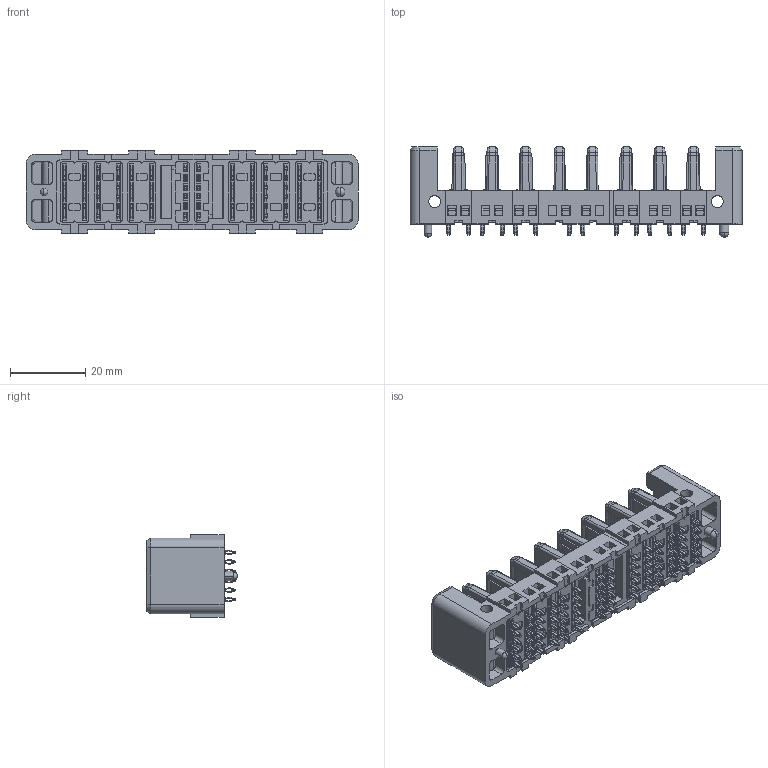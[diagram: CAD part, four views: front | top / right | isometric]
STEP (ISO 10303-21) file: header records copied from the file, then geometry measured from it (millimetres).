
FILE_DESCRIPTION(/* description */ (''),/* implementation_level */ '2;1');
FILE_NAME(/* name */ 'PDC3730F0001-12S石头档.stp',/* time_stamp */ '2024-08-16T10:37:20+08:00',/* author */ (''),/* organization */ (''),/* preprocessor_version */ 'ST-DEVELOPER v16.7',/* originating_system */ 'SIEMENS PLM Software NX 1946',/* authorisation */ '');
FILE_SCHEMA (('AUTOMOTIVE_DESIGN { 1 0 10303 214 3 1 1 1 }'));
Products named in the file (1): _model1
Bounding box: 88.1 x 24 x 22 mm (x, y, z)
Volume: 20231.8 mm3; surface area: 18590.5 mm2
Topology: 1 solids, 24 shells, 4319 faces, 11508 edges, 7173 vertices
Faces by surface type: plane 1551, cylinder 1289, torus 672, bspline 368, extrusion 347, cone 88, sphere 4
Entity records: 178505 total; most frequent: CARTESIAN_POINT 54469, ORIENTED_EDGE 23008, DIRECTION 20193, EDGE_CURVE 11504, VERTEX_POINT 7173, AXIS2_PLACEMENT_3D 7022, VECTOR 6149, LINE 5802
